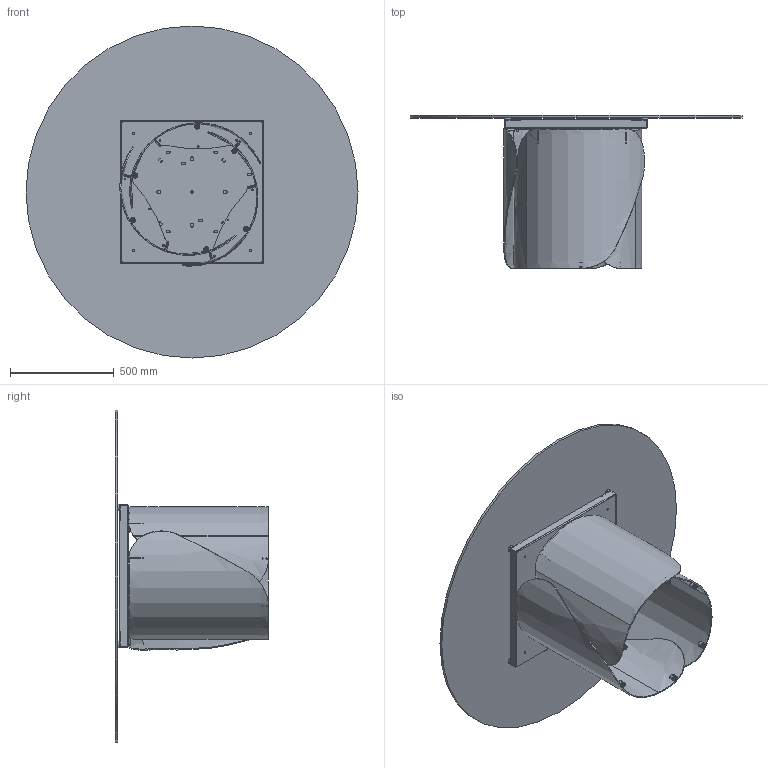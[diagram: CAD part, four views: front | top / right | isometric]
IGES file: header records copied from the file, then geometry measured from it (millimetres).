
Start section: SolidWorks IGES file using analytic representation for surfaces
Global section: file name: Y:\eforma\TECNICO\SOLIDWORKS\E-FORMA\1-TAVOLI\ONDA\02 parts\ON08G.IGS; native system: SolidWorks 2022; preprocessor: SolidWorks 2022; author: eforma.tech; date: 240806.153116; units: millimetre
Bounding box: 1600 x 738 x 1600 mm (x, y, z)
Volume: 34904044.3 mm3; surface area: 8721663.3 mm2
Topology: 62 solids, 62 shells, 1545 faces, 3651 edges, 2266 vertices
Faces by surface type: revolution 859, plane 626, bspline 60
